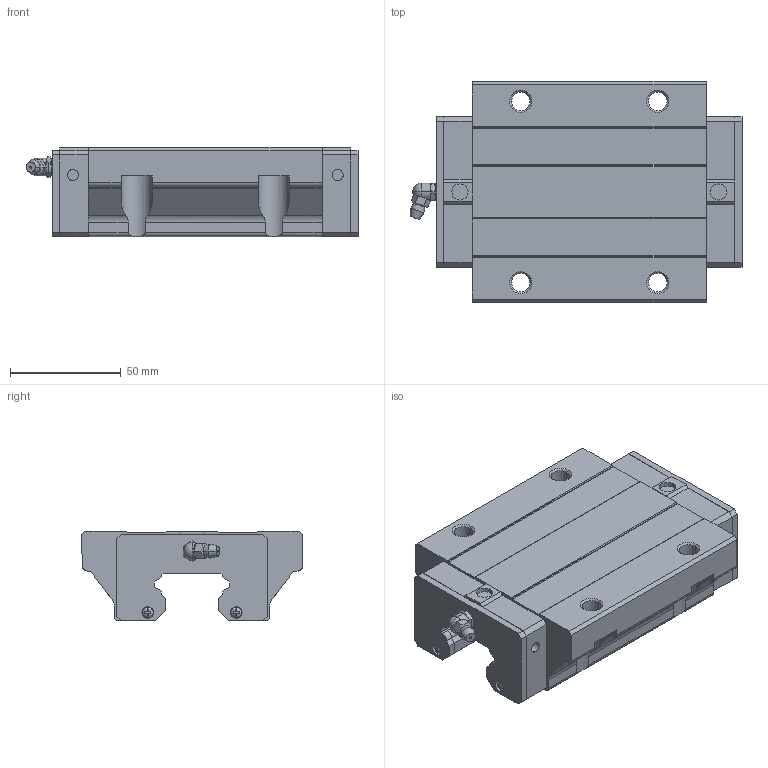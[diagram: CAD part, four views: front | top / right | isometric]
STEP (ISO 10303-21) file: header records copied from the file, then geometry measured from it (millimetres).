
FILE_DESCRIPTION(('starvars output'),'2;1');
FILE_NAME('cv20190625230816000114156.stp','23:08:17 2019/06/25',( 'Thomas Industrial Network Germany GmbH'),( 'Thomas Industrial Network Germany GmbH'),'unknown preprocess','ACIS' ,'unknown authorization');
FILE_SCHEMA(('CONFIG_CONTROL_DESIGN {UNKNOWN IMPLEMENTATION LEVEL}'));
Length unit declared in the file: millimetre
Products named in the file (10): PRODUCT_ID_1; PRODUCT_ID_2; PRODUCT_ID_3; PRODUCT_ID_4; PRODUCT_ID_5; PRODUCT_ID_6; PRODUCT_ID_7; PRODUCT_ID_8; PRODUCT_ID_9; PRODUCT_ID_10
Bounding box: 150.2 x 100 x 40.5 mm (x, y, z)
Volume: 363571.8 mm3; surface area: 67257.5 mm2
Topology: 10 solids, 10 shells, 414 faces, 1087 edges, 702 vertices
Faces by surface type: plane 262, cylinder 84, cone 56, sphere 12
Entity records: 12380 total; most frequent: ORIENTED_EDGE 2166, CARTESIAN_POINT 2161, DIRECTION 1680, EDGE_CURVE 1083, VERTEX_POINT 702, VECTOR 682, LINE 682, AXIS2_PLACEMENT_3D 499
